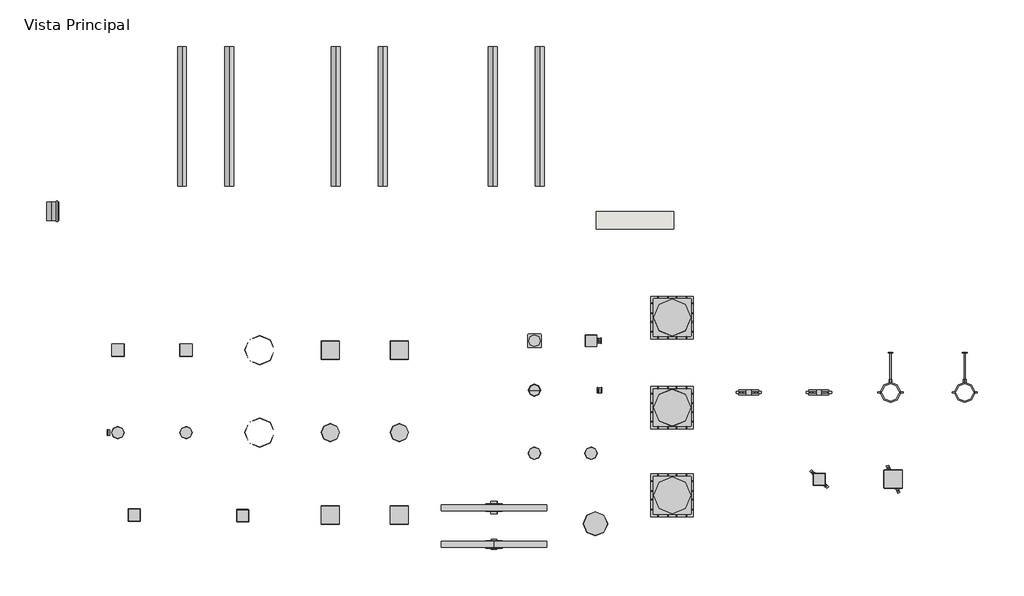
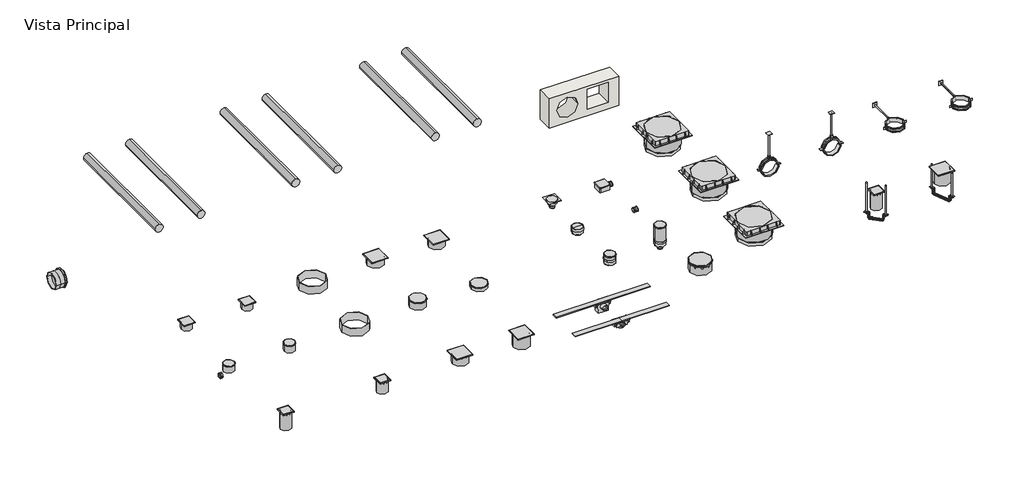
# One storey, incomplete: 79 pipe fittings, 6 pipe segments, 1 wall.
"""IFC4 building model written with IfcOpenShell, lengths in millimetres."""

from ifc_helpers import new_model, si_unit, point, frame, frame_2d, origin, place, context, project, spatial, polyline, circle_curve, trimmed, segment, composite_curve, outline, extrude, transform, mapped, element, save
from components import pipe_fitting_c9efb842, pipe_fitting_faaf0da3, pipe_fitting_47652752, pipe_fitting_5ac48150, var_07da592b, pipe_fitting_1affa7ac, branca_4d6c81dc, branca_e114f869, var_25763102, var_cd76d954, var_304c1aea, var_a9bd8114, var_31f01aff, var_6f0030ce, var_fd0be4a2, var_b1dc0cad, var_47bd62c8, var_adf0dea4, var_122aa8a0, var_08b32b5d, var_3f5b61a8, var_40b4b024, var_42dec933, var_c6f7f501, var_f02d1231, var_ae364558, var_155bfaf0, var_bb14af41, var_194fee5a, var_7cdf46ec, var_94de5e28, var_d2fa6d5f, var_e4b9970f, var_037d8761, var_c44c6f17, var_c8ad4ade, var_b5652f76, var_2c33ede7, var_7808e819, var_b98f59b0, var_06b88987, var_c3ea8d3d, var_ea95b4ab, var_e0431023, var_e55450d1, var_c63adebf, var_61dafded, var_d8ce8ba5, var_463eae7b

model = new_model("IFC4")

# Units and contexts
model_context = context("Model", 3, world=origin())
ifc_project = project(units=[si_unit("LENGTHUNIT", "METRE", prefix="MILLI")], contexts=[model_context])

# Site, building, storey
site = spatial("IfcSite", under=ifc_project)
building = spatial("IfcBuilding", under=site)
storey = spatial("IfcBuildingStorey", under=building, Name="Vista Principal", Elevation=0.0)

# Pipe fittings
placement = place(None, origin())
pipe_fitting_shape = pipe_fitting_c9efb842(model_context)
element("IfcPipeFitting", 1, ObjectType="AmancoWavin_ConexõesdeTubos_EsgotoSilentiumNãoUsarSuporteCaixa : Zincado", at=placement, inside=storey, context=model_context, shape_type="MappedRepresentation", body=[
    mapped(pipe_fitting_shape, transform((21144.6539779, 3001.5203886, -290.355), x_axis=(0.7071067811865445, -0.7071067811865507, 0.0), y_axis=(0.7071067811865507, 0.7071067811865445, 0.0), z_axis=(0.0, 0.0, 1.0))),
])
pipe_fitting_2_shape = pipe_fitting_faaf0da3(model_context)
element("IfcPipeFitting", 2, ObjectType="AmancoWavin_ConexõesdeTubos_EsgotoSilentiumNãoUsarSuporteCaixa : Ecoat", at=placement, inside=storey, context=model_context, shape_type="MappedRepresentation", body=[
    mapped(pipe_fitting_2_shape, transform((21772.0366197, 3001.5203886, -293.01), x_axis=(0.3826834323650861, -0.9238795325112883, 0.0), y_axis=(0.9238795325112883, 0.3826834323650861, 0.0), z_axis=(0.0, 0.0, 1.0))),
])
pipe_fitting_3_shape = pipe_fitting_47652752(model_context)
element("IfcPipeFitting", 3, ObjectType="Z_Amanco Esgoto Caixa Sif Grelha Vórtice Quadrada (Nested) : Plástica Branca", at=placement, inside=storey, context=model_context, shape_type="MappedRepresentation", body=[
    mapped(pipe_fitting_3_shape, transform((15194.231361, 4096.9251232, 101.0), x_axis=(0.0, 1.0, 0.0), y_axis=(-1.0, 0.0, 0.0), z_axis=(0.0, 0.0, 1.0))),
])
pipe_fitting_4_shape = pipe_fitting_5ac48150(model_context)
element("IfcPipeFitting", 4, ObjectType="Z_Amanco Esgoto Caixa Sif Grelha Vórtice Redonda (Nested) : Plástica Branca", at=placement, inside=storey, context=model_context, shape_type="MappedRepresentation", body=[
    mapped(pipe_fitting_4_shape, transform((15194.231361, 3396.9251232, 98.6), x_axis=(-1.0, 0.0, 0.0), y_axis=(0.0, -1.0, 0.0), z_axis=(0.0, 0.0, 1.0))),
])
var_shape = var_07da592b(model_context)
element("IfcPipeFitting", 5, ObjectType="AmancoWavin_ConexõesdeTubos_EsgotoZNãoUsarGrelhaVorticeSilentium : Aço Inox Polido", at=placement, inside=storey, context=model_context, shape_type="MappedRepresentation", body=[
    mapped(var_shape, transform((16182.1459533, 2691.9251232, -2.6), x_axis=(-1.0, 0.0, 0.0), y_axis=(0.0, -1.0, 0.0), z_axis=(0.0, 0.0, 1.0))),
])
element("IfcPipeFitting", 6, ObjectType="AmancoWavin_ConexõesdeTubos_EsgotoZNãoUsarGrelhaVorticeSilentium : Aço Inox Polido", at=placement, inside=storey, context=model_context, shape_type="MappedRepresentation", body=[
    mapped(var_shape, transform((15262.2274414, 2696.9251232, -2.6), x_axis=(-1.0, 0.0, 0.0), y_axis=(0.0, -1.0, 0.0), z_axis=(0.0, 0.0, 1.0))),
])
pipe_fitting_5_shape = pipe_fitting_1affa7ac(model_context)
element("IfcPipeFitting", 7, ObjectType="AmancoWavin_ConexõesdeTubos_EsgotoZNãoUsarGrelhaVorticeSilentium : Aço Inox Polido", at=placement, inside=storey, context=model_context, shape_type="MappedRepresentation", body=[
    mapped(pipe_fitting_5_shape, transform((16926.8649644, 2696.9251232, -3.0), x_axis=(-1.0, 0.0, 0.0), y_axis=(0.0, -1.0, 0.0), z_axis=(0.0, 0.0, 1.0))),
])
element("IfcPipeFitting", 8, ObjectType="AmancoWavin_ConexõesdeTubos_EsgotoZNãoUsarGrelhaVorticeSilentium : Aço Inox Polido", at=placement, inside=storey, context=model_context, shape_type="MappedRepresentation", body=[
    mapped(pipe_fitting_5_shape, transform((17511.8649644, 2696.9251232, -3.0), x_axis=(-1.0, 0.0, 0.0), y_axis=(0.0, -1.0, 0.0), z_axis=(0.0, 0.0, 1.0))),
])
element("IfcPipeFitting", 9, ObjectType="AmancoWavin_ConexõesdeTubos_EsgotoZNãoUsarGrelhaVorticeSilentium : Aço Inox Polido", at=placement, inside=storey, context=model_context, shape_type="MappedRepresentation", body=[
    mapped(pipe_fitting_5_shape, transform((21701.6339755, 3001.5203886, -3.0), x_axis=(-1.0, 0.0, 0.0), y_axis=(0.0, -1.0, 0.0), z_axis=(0.0, 0.0, 1.0))),
])
branca_shape = branca_4d6c81dc(model_context)
element("IfcPipeFitting", 10, ObjectType="AmancoWavin_ConexõesdeTubos_EsgotoZNãoUsarTerminalRalolinear : Branca", at=placement, inside=storey, context=model_context, shape_type="MappedRepresentation", body=[
    mapped(branca_shape, transform((18386.107067, 2759.226408, -42.0), x_axis=(0.0, 1.0, 0.0), y_axis=(-1.0, 0.0, 0.0), z_axis=(0.0, 0.0, 1.0))),
])
branca_2_shape = branca_e114f869(model_context)
element("IfcPipeFitting", 11, ObjectType="AmancoWavin_ConexõesdeTubos_EsgotoZNãoUsarTerminalRalolinear : Branca", at=placement, inside=storey, context=model_context, shape_type="MappedRepresentation", body=[
    mapped(branca_2_shape, transform((18386.107067, 2446.98649, -32.0), x_axis=(0.0, 1.0, 0.0), y_axis=(-1.0, 0.0, 0.0), z_axis=(0.0, 0.0, 1.0))),
])
var_2_shape = var_25763102(model_context)
element("IfcPipeFitting", 12, ObjectType="AmancoWavin_ConexõesdeTubos_EsgotoSilentiumAbraçadeiraH_Zincada : Var.", at=placement, inside=storey, context=model_context, shape_type="MappedRepresentation", body=[
    mapped(var_2_shape, transform((20547.0326854, 3738.3854525, 0.0), x_axis=(1.0, 0.0, 0.0), y_axis=(0.0, 1.0, 0.0), z_axis=(0.0, 0.0, 1.0))),
])
var_3_shape = var_cd76d954(model_context)
element("IfcPipeFitting", 13, ObjectType="Z_Amanco Esgoto Redução Para Caixa Sifonada DN50X40 (Nested) : Var.", at=placement, inside=storey, context=model_context, shape_type="MappedRepresentation", body=[
    mapped(var_3_shape, transform((15116.031361, 3396.9251232, 0.0), x_axis=(1.0, 0.0, 0.0), y_axis=(0.0, 1.0, 0.0), z_axis=(0.0, 0.0, 1.0))),
])
var_4_shape = var_304c1aea(model_context)
element("IfcPipeFitting", 14, ObjectType="Z_Amanco Esgoto Caixa Sif DN 100  SQ GRID(Nested) : Var.", at=placement, inside=storey, context=model_context, shape_type="MappedRepresentation", body=[
    mapped(var_4_shape, transform((15772.6300856, 4096.9251232, 101.0), x_axis=(1.0, 0.0, 0.0), y_axis=(0.0, 1.0, 0.0), z_axis=(0.0, 0.0, 1.0))),
])
var_5_shape = var_a9bd8114(model_context)
element("IfcPipeFitting", 15, ObjectType="Z_Amanco Esgoto Caixa Sif DN 100 Porta Grelha Redondo (Nested) : Var.", at=placement, inside=storey, context=model_context, shape_type="MappedRepresentation", body=[
    mapped(var_5_shape, transform((15194.231361, 3396.9251232, 98.5), x_axis=(0.0, 1.0, 0.0), y_axis=(-1.0, 0.0, 0.0), z_axis=(0.0, 0.0, 1.0))),
])
var_6_shape = var_31f01aff(model_context)
element("IfcPipeFitting", 16, ObjectType="Z_Amanco Esgoto Caixa Sif DN 100 Porta Grelha Quadrado (Nested) : Var.", at=placement, inside=storey, context=model_context, shape_type="MappedRepresentation", body=[
    mapped(var_6_shape, transform((15194.231361, 4096.9251232, 101.0), x_axis=(1.0, 0.0, 0.0), y_axis=(0.0, 1.0, 0.0), z_axis=(0.0, 0.0, 1.0))),
])
var_7_shape = var_6f0030ce(model_context)
element("IfcPipeFitting", 17, ObjectType="Z_Amanco Esgoto Caixa Sif DN 100  RO GRID(Nested) : Var.", at=placement, inside=storey, context=model_context, shape_type="MappedRepresentation", body=[
    mapped(var_7_shape, transform((15772.6300856, 3396.9251232, 106.0), x_axis=(1.0, 0.0, 0.0), y_axis=(0.0, 1.0, 0.0), z_axis=(0.0, 0.0, 1.0))),
])
var_8_shape = var_fd0be4a2(model_context)
element("IfcPipeFitting", 18, ObjectType="Z_Amanco Esgoto Caixa Sif DN 150  RO GRID(Nested) : Var.", at=placement, inside=storey, context=model_context, shape_type="MappedRepresentation", body=[
    mapped(var_8_shape, transform((16997.2676086, 3396.9251232, 126.0), x_axis=(1.0, 0.0, 0.0), y_axis=(0.0, 1.0, 0.0), z_axis=(0.0, 0.0, 1.0))),
])
element("IfcPipeFitting", 19, ObjectType="Z_Amanco Esgoto Caixa Sif DN 150  RO GRID(Nested) : Var.", at=placement, inside=storey, context=model_context, shape_type="MappedRepresentation", body=[
    mapped(var_8_shape, transform((17582.2676086, 3396.9251232, 74.0), x_axis=(1.0, 0.0, 0.0), y_axis=(0.0, 1.0, 0.0), z_axis=(0.0, 0.0, 1.0))),
])
var_9_shape = var_b1dc0cad(model_context)
element("IfcPipeFitting", 20, ObjectType="AmancoWavin_ConexõesdeTubos_EsgotoZNãoUsarRaloSifonadoCilindrico : Var.", at=placement, inside=storey, context=model_context, shape_type="MappedRepresentation", body=[
    mapped(var_9_shape, transform((18729.1544399, 3756.5330417, -18.0), x_axis=(1.0, 0.0, 0.0), y_axis=(0.0, 1.0, 0.0), z_axis=(0.0, 0.0, 1.0))),
])
var_10_shape = var_47bd62c8(model_context)
element("IfcPipeFitting", 21, ObjectType="AmancoWavin_ConexõesdeTubos_EsgotoRaloSecoQuadrado : Var.", at=placement, inside=storey, context=model_context, shape_type="MappedRepresentation", body=[
    mapped(var_10_shape, transform((19209.1544399, 4176.9251232, 0.0), x_axis=(1.0, 0.0, 0.0), y_axis=(0.0, 1.0, 0.0), z_axis=(0.0, 0.0, 1.0))),
])
var_11_shape = var_adf0dea4(model_context)
element("IfcPipeFitting", 22, ObjectType="AmancoWavin_ConexõesdeTubos_EsgotoZNãoUsarCaixaSifonadaSilentiumProlongamento : Var.", at=placement, inside=storey, context=model_context, shape_type="MappedRepresentation", body=[
    mapped(var_11_shape, transform((15332.6300856, 2696.9251232, -173.625), x_axis=(0.0, 0.0, 1.0), y_axis=(-1.0, 0.0, 0.0), z_axis=(0.0, -1.0, 0.0))),
])
element("IfcPipeFitting", 23, ObjectType="AmancoWavin_ConexõesdeTubos_EsgotoZNãoUsarCaixaSifonadaSilentiumProlongamento : Var.", at=placement, inside=storey, context=model_context, shape_type="MappedRepresentation", body=[
    mapped(var_11_shape, transform((21144.6539779, 3001.5203886, -173.625), x_axis=(0.0, 0.0, 1.0), y_axis=(-1.0, 0.0, 0.0), z_axis=(0.0, -1.0, 0.0))),
])
var_12_shape = var_122aa8a0(model_context)
element("IfcPipeFitting", 24, ObjectType="AmancoWavin_ConexõesdeTubos_EsgotoZNãoUsarCaixaSifonadaSilentiumProlongamento : Var.", at=placement, inside=storey, context=model_context, shape_type="MappedRepresentation", body=[
    mapped(var_12_shape, transform((16997.2676086, 2696.9251232, -91.0), x_axis=(0.0, 0.0, 1.0), y_axis=(-1.0, 0.0, 0.0), z_axis=(0.0, -1.0, 0.0))),
])
var_13_shape = var_08b32b5d(model_context)
element("IfcPipeFitting", 25, ObjectType="AmancoWavin_ConexõesdeTubos_EsgotoZNãoUsarCaixaSifonadaSilentiumProlongamento : Var.", at=placement, inside=storey, context=model_context, shape_type="MappedRepresentation", body=[
    mapped(var_13_shape, transform((17582.2676086, 2696.9251232, -128.0), x_axis=(0.0, 0.0, 1.0), y_axis=(-1.0, 0.0, 0.0), z_axis=(0.0, -1.0, 0.0))),
])
element("IfcPipeFitting", 26, ObjectType="AmancoWavin_ConexõesdeTubos_EsgotoZNãoUsarCaixaSifonadaSilentiumProlongamento : Var.", at=placement, inside=storey, context=model_context, shape_type="MappedRepresentation", body=[
    mapped(var_13_shape, transform((21772.0366197, 3001.5203886, -128.0), x_axis=(0.0, 0.0, 1.0), y_axis=(-1.0, 0.0, 0.0), z_axis=(0.0, -1.0, 0.0))),
])
var_14_shape = var_3f5b61a8(model_context)
element("IfcPipeFitting", 27, ObjectType="AmancoWavin_ConexõesdeTubos_EsgotoZNãoUsarCaixaSifonadaSilentiumProlongamento : Var.", at=placement, inside=storey, context=model_context, shape_type="MappedRepresentation", body=[
    mapped(var_14_shape, transform((16252.5485975, 2691.9251232, -124.6526955), x_axis=(0.0, 0.0, 1.0), y_axis=(-1.0, 0.0, 0.0), z_axis=(0.0, -1.0, 0.0))),
])
var_15_shape = var_40b4b024(model_context)
element("IfcPipeFitting", 28, ObjectType="AmancoWavin_ConexõesdeTubos_EsgotoZNãoUsarLuvaSimple : Var.", at=placement, inside=storey, context=model_context, shape_type="MappedRepresentation", body=[
    mapped(var_15_shape, transform((19209.1544399, 3221.7756526, -19.0), x_axis=(0.0, 0.0, 1.0), y_axis=(-1.0, 0.0, 0.0), z_axis=(0.0, -1.0, 0.0))),
])
element("IfcPipeFitting", 29, ObjectType="AmancoWavin_ConexõesdeTubos_EsgotoZNãoUsarLuvaSimple : Var.", at=placement, inside=storey, context=model_context, shape_type="MappedRepresentation", body=[
    mapped(var_15_shape, transform((19280.4544399, 3756.5330417, 0.0), x_axis=(-1.0, 0.0, 0.0), y_axis=(0.0, -1.0, 0.0), z_axis=(0.0, 0.0, 1.0))),
])
element("IfcPipeFitting", 30, ObjectType="AmancoWavin_ConexõesdeTubos_EsgotoZNãoUsarLuvaSimple : Var.", at=placement, inside=storey, context=model_context, shape_type="MappedRepresentation", body=[
    mapped(var_15_shape, transform((19277.3544399, 4176.9251232, 0.0), x_axis=(-1.0, 0.0, 0.0), y_axis=(0.0, 0.0, -1.0), z_axis=(0.0, -1.0, 0.0))),
])
element("IfcPipeFitting", 31, ObjectType="AmancoWavin_ConexõesdeTubos_EsgotoZNãoUsarLuvaSimple : Var.", at=placement, inside=storey, context=model_context, shape_type="MappedRepresentation", body=[
    mapped(var_15_shape, transform((18729.1544399, 4176.9251232, -19.0), x_axis=(0.0, 0.0, 1.0), y_axis=(-1.0, 0.0, 0.0), z_axis=(0.0, -1.0, 0.0))),
])
var_16_shape = var_42dec933(model_context)
element("IfcPipeFitting", 32, ObjectType="AmancoWavin_ConexõesdeTubos_EsgotoZNãoUsarLuvaSimple : Var.", at=placement, inside=storey, context=model_context, shape_type="MappedRepresentation", body=[
    mapped(var_16_shape, transform((14629.1609889, 5276.2225632, 0.0), x_axis=(1.0, 0.0, 0.0), y_axis=(0.0, 1.0, 0.0), z_axis=(0.0, 0.0, 1.0))),
])
var_17_shape = var_c6f7f501(model_context)
element("IfcPipeFitting", 33, ObjectType="AmancoWavin_ConexõesdeTubos_EsgotoZNãoUsarGelhaRaloLinear : Var.", at=placement, inside=storey, context=model_context, shape_type="MappedRepresentation", body=[
    mapped(var_17_shape, transform((18610.257067, 2446.98649, -5.7), x_axis=(-1.0, 0.0, 0.0), y_axis=(0.0, -1.0, 0.0), z_axis=(0.0, 0.0, 1.0))),
])
element("IfcPipeFitting", 34, ObjectType="AmancoWavin_ConexõesdeTubos_EsgotoZNãoUsarGelhaRaloLinear : Var.", at=placement, inside=storey, context=model_context, shape_type="MappedRepresentation", body=[
    mapped(var_17_shape, transform((18161.957067, 2446.98649, -5.7), x_axis=(-1.0, 0.0, 0.0), y_axis=(0.0, -1.0, 0.0), z_axis=(0.0, 0.0, 1.0))),
])
var_18_shape = var_f02d1231(model_context)
element("IfcPipeFitting", 35, ObjectType="AmancoWavin_ConexõesdeTubos_EsgotoRaloLinearSifonado : Var.", at=placement, inside=storey, context=model_context, shape_type="MappedRepresentation", body=[
    mapped(var_18_shape, transform((18386.107067, 2759.226408, 0.0), x_axis=(-1.0, 0.0, 0.0), y_axis=(0.0, -1.0, 0.0), z_axis=(0.0, 0.0, 1.0))),
])
var_19_shape = var_ae364558(model_context)
element("IfcPipeFitting", 36, ObjectType="AmancoWavin_ConexõesdeTubos_EsgotoZNãoUsarEsgotoProlongamento300mm : Var.", at=placement, inside=storey, context=model_context, shape_type="MappedRepresentation", body=[
    mapped(var_19_shape, transform((19897.5301317, 4373.3854525, 44.7), x_axis=(1.0, 0.0, 0.0), y_axis=(0.0, 1.0, 0.0), z_axis=(0.0, 0.0, 1.0))),
])
element("IfcPipeFitting", 37, ObjectType="AmancoWavin_ConexõesdeTubos_EsgotoZNãoUsarEsgotoProlongamento300mm : Var.", at=placement, inside=storey, context=model_context, shape_type="MappedRepresentation", body=[
    mapped(var_19_shape, transform((19897.5301317, 3608.8206667, 58.8), x_axis=(1.0, 0.0, 0.0), y_axis=(0.0, 1.0, 0.0), z_axis=(0.0, 0.0, 1.0))),
])
var_20_shape = var_155bfaf0(model_context)
element("IfcPipeFitting", 38, ObjectType="AmancoWavin_ConexõesdeTubos_EsgotoZNãoUsarEsgotoProlongamento300mm : Var.", at=placement, inside=storey, context=model_context, shape_type="MappedRepresentation", body=[
    mapped(var_20_shape, transform((19897.5301317, 2864.2558809, 58.8), x_axis=(1.0, 0.0, 0.0), y_axis=(0.0, 1.0, 0.0), z_axis=(0.0, 0.0, 1.0))),
])
var_21_shape = var_bb14af41(model_context)
element("IfcPipeFitting", 39, ObjectType="AmancoWavin_ConexõesdeTubos_EsgotoZNãoUsarPortaGrelhaVálvuladeRetenção : Var.", at=placement, inside=storey, context=model_context, shape_type="MappedRepresentation", body=[
    mapped(var_21_shape, transform((19316.5560305, 2623.1095783, 178.0), x_axis=(1.0, 0.0, 0.0), y_axis=(0.0, 1.0000000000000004, 0.0), z_axis=(0.0, 0.0, 1.0000000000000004))),
])
var_22_shape = var_194fee5a(model_context)
element("IfcPipeFitting", 40, ObjectType="AmancoWavin_ConexõesdeTubos_EsgotoZNãoUsarEsgotoCaixaSifProlongamento : Var.", at=placement, inside=storey, context=model_context, shape_type="MappedRepresentation", body=[
    mapped(var_22_shape, transform((16397.2676086, 4096.9251232, 31.0), x_axis=(0.0, 0.0, 1.0), y_axis=(-1.0, 0.0, 0.0), z_axis=(0.0, -1.0, 0.0))),
])
element("IfcPipeFitting", 41, ObjectType="AmancoWavin_ConexõesdeTubos_EsgotoZNãoUsarEsgotoCaixaSifProlongamento : Var.", at=placement, inside=storey, context=model_context, shape_type="MappedRepresentation", body=[
    mapped(var_22_shape, transform((16397.2676086, 3396.9251232, 31.0), x_axis=(0.0, 0.0, 1.0), y_axis=(-1.0, 0.0, 0.0), z_axis=(0.0, -1.0, 0.0))),
])
var_23_shape = var_7cdf46ec(model_context)
element("IfcPipeFitting", 42, ObjectType="AmancoWavin_ConexõesdeTubos_EsgotoZNãoUsarEsgotoCaixaSifProlongamento : Var.", at=placement, inside=storey, context=model_context, shape_type="MappedRepresentation", body=[
    mapped(var_23_shape, transform((16997.2676086, 4096.9251232, 51.0), x_axis=(0.0, 0.0, 1.0), y_axis=(-1.0, 0.0, 0.0), z_axis=(0.0, -1.0, 0.0))),
])
element("IfcPipeFitting", 43, ObjectType="AmancoWavin_ConexõesdeTubos_EsgotoZNãoUsarEsgotoCaixaSifProlongamento : Var.", at=placement, inside=storey, context=model_context, shape_type="MappedRepresentation", body=[
    mapped(var_23_shape, transform((16997.2676086, 3396.9251232, 51.0), x_axis=(0.0, 0.0, 1.0), y_axis=(-1.0, 0.0, 0.0), z_axis=(0.0, -1.0, 0.0))),
])
element("IfcPipeFitting", 44, ObjectType="AmancoWavin_ConexõesdeTubos_EsgotoZNãoUsarEsgotoCaixaSifProlongamento : Var.", at=placement, inside=storey, context=model_context, shape_type="MappedRepresentation", body=[
    mapped(var_23_shape, transform((17582.2676086, 4096.9251232, 34.0), x_axis=(0.0, 0.0, 1.0), y_axis=(-1.0, 0.0, 0.0), z_axis=(0.0, -1.0, 0.0))),
])
var_24_shape = var_94de5e28(model_context)
element("IfcPipeFitting", 45, ObjectType="AmancoWavin_ConexõesdeTubos_EsgotoZNãoUsarEsgotoCaixaSifProlongamento : Var.", at=placement, inside=storey, context=model_context, shape_type="MappedRepresentation", body=[
    mapped(var_24_shape, transform((15772.6300856, 3396.9251232, 31.0), x_axis=(0.0, 0.0, 1.0), y_axis=(-1.0, 0.0, 0.0), z_axis=(0.0, -1.0, 0.0))),
])
var_25_shape = var_d2fa6d5f(model_context)
element("IfcPipeFitting", 46, ObjectType="AmancoWavin_ConexõesdeTubos_EsgotoZNãoUsarEsgotoCaixaSifProlongamento : Var.", at=placement, inside=storey, context=model_context, shape_type="MappedRepresentation", body=[
    mapped(var_25_shape, transform((17582.2676086, 3396.9251232, 34.0), x_axis=(0.0, 0.0, 1.0), y_axis=(-1.0, 0.0, 0.0), z_axis=(0.0, -1.0, 0.0))),
])
var_26_shape = var_e4b9970f(model_context)
element("IfcPipeFitting", 47, ObjectType="AmancoWavin_ConexõesdeTubos_EsgotoZNãoUsarEsgotoCaixaSifProlongamento : Var.", at=placement, inside=storey, context=model_context, shape_type="MappedRepresentation", body=[
    mapped(var_26_shape, transform((19246.1533863, 2623.1095783, 98.8), x_axis=(0.0, 0.0, 1.0000000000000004), y_axis=(-1.0, 0.0, 0.0), z_axis=(0.0, -1.0000000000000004, 0.0))),
])
var_27_shape = var_037d8761(model_context)
element("IfcPipeFitting", 48, ObjectType="AmancoWavin_ConexõesdeTubos_EsgotoZNãoUsarEsgotoCaixaSifProlongamento : Var.", at=placement, inside=storey, context=model_context, shape_type="MappedRepresentation", body=[
    mapped(var_27_shape, transform((15772.6300856, 4096.9251232, 31.0), x_axis=(0.0, 0.0, 1.0), y_axis=(-1.0, 0.0, 0.0), z_axis=(0.0, -1.0, 0.0))),
])
element("IfcPipeFitting", 49, ObjectType="AmancoWavin_ConexõesdeTubos_EsgotoZNãoUsarEsgotoCaixaSifProlongamento : Var.", at=placement, inside=storey, context=model_context, shape_type="MappedRepresentation", body=[
    mapped(var_27_shape, transform((15194.231361, 4096.9251232, 31.0), x_axis=(0.0, 0.0, 1.0), y_axis=(-1.0, 0.0, 0.0), z_axis=(0.0, -1.0, 0.0))),
])
var_28_shape = var_c44c6f17(model_context)
element("IfcPipeFitting", 50, ObjectType="AmancoWavin_ConexõesdeTubos_EsgotoZNãoUsarEsgotoCaixaSifProlongamento : Var.", at=placement, inside=storey, context=model_context, shape_type="MappedRepresentation", body=[
    mapped(var_28_shape, transform((18729.1544399, 3221.7756526, 19.3), x_axis=(0.0, 0.0, 1.0), y_axis=(-1.0, 0.0, 0.0), z_axis=(0.0, -1.0, 0.0))),
])
var_29_shape = var_c8ad4ade(model_context)
element("IfcPipeFitting", 51, ObjectType="AmancoWavin_ConexõesdeTubos_EsgotoZNãoUsarEsgotoCaixaSifProlongamento : Var.", at=placement, inside=storey, context=model_context, shape_type="MappedRepresentation", body=[
    mapped(var_29_shape, transform((19209.1544399, 3221.7756526, 38.0), x_axis=(0.0, 0.0, 1.0), y_axis=(-1.0, 0.0, 0.0), z_axis=(0.0, -1.0, 0.0))),
])
var_30_shape = var_b5652f76(model_context)
element("IfcPipeFitting", 52, ObjectType="AmancoWavin_ConexõesdeTubos_EsgotoZNãoUsarEsgotoCaixaSifProlongamento : Var.", at=placement, inside=storey, context=model_context, shape_type="MappedRepresentation", body=[
    mapped(var_30_shape, transform((15194.231361, 3396.9251232, 31.0), x_axis=(0.0, 0.0, 1.0), y_axis=(-1.0, 0.0, 0.0), z_axis=(0.0, -1.0, 0.0))),
])
var_31_shape = var_2c33ede7(model_context)
element("IfcPipeFitting", 53, ObjectType="AmancoWavin_ConexõesdeTubos_EsgotoZNãoUsarTampaCaixaGord-Insp : Var.", at=placement, inside=storey, context=model_context, shape_type="MappedRepresentation", body=[
    mapped(var_31_shape, transform((19897.5301317, 3608.8206667, 212.6), x_axis=(1.0, 0.0, 0.0), y_axis=(0.0, 1.0, 0.0), z_axis=(0.0, 0.0, 1.0))),
])
element("IfcPipeFitting", 54, ObjectType="AmancoWavin_ConexõesdeTubos_EsgotoZNãoUsarTampaCaixaGord-Insp : Var.", at=placement, inside=storey, context=model_context, shape_type="MappedRepresentation", body=[
    mapped(var_31_shape, transform((19897.5301317, 4373.3854525, 198.5), x_axis=(1.0, 0.0, 0.0), y_axis=(0.0, 1.0, 0.0), z_axis=(0.0, 0.0, 1.0))),
])
element("IfcPipeFitting", 55, ObjectType="AmancoWavin_ConexõesdeTubos_EsgotoZNãoUsarTampaCaixaGord-Insp : Var.", at=placement, inside=storey, context=model_context, shape_type="MappedRepresentation", body=[
    mapped(var_31_shape, transform((19897.5301317, 2864.2558809, 207.6), x_axis=(1.0, 0.0, 0.0), y_axis=(0.0, 1.0, 0.0), z_axis=(0.0, 0.0, 1.0))),
])
var_32_shape = var_7808e819(model_context)
element("IfcPipeFitting", 56, ObjectType="AmancoWavin_ConexõesdeTubos_EsgotoZNãoUsarRaloSifonadoQuadrado(Corpo Conico) : Var.", at=placement, inside=storey, context=model_context, shape_type="MappedRepresentation", body=[
    mapped(var_32_shape, transform((18729.1544399, 4176.9251232, 0.0), x_axis=(1.0, 0.0, 0.0), y_axis=(0.0, 1.0, 0.0), z_axis=(0.0, 0.0, 1.0))),
])
var_33_shape = var_b98f59b0(model_context)
element("IfcPipeFitting", 57, ObjectType="AmancoWavin_ConexõesdeTubos_EsgotoZNãoUsarPortaGrelhaSilentium : Var.", at=placement, inside=storey, context=model_context, shape_type="MappedRepresentation", body=[
    mapped(var_33_shape, transform((17067.6702529, 2696.9251232, -7.0), x_axis=(1.0, 0.0, 0.0), y_axis=(0.0, 1.0, 0.0), z_axis=(0.0, 0.0, 1.0))),
])
element("IfcPipeFitting", 58, ObjectType="AmancoWavin_ConexõesdeTubos_EsgotoZNãoUsarPortaGrelhaSilentium : Var.", at=placement, inside=storey, context=model_context, shape_type="MappedRepresentation", body=[
    mapped(var_33_shape, transform((17511.8649644, 2696.9251232, -7.0), x_axis=(-1.0, 0.0, 0.0), y_axis=(0.0, -1.0, 0.0), z_axis=(0.0, 0.0, 1.0))),
])
element("IfcPipeFitting", 59, ObjectType="AmancoWavin_ConexõesdeTubos_EsgotoZNãoUsarPortaGrelhaSilentium : Var.", at=placement, inside=storey, context=model_context, shape_type="MappedRepresentation", body=[
    mapped(var_33_shape, transform((21701.6339755, 3001.5203886, -7.0), x_axis=(-1.0, 0.0, 0.0), y_axis=(0.0, -1.0, 0.0), z_axis=(0.0, 0.0, 1.0))),
])
var_34_shape = var_06b88987(model_context)
element("IfcPipeFitting", 60, ObjectType="AmancoWavin_ConexõesdeTubos_EsgotoSilentiumAbraçadeiraV_Zincada : Var.", at=placement, inside=storey, context=model_context, shape_type="MappedRepresentation", body=[
    mapped(var_34_shape, transform((21749.9859504, 3738.3854525, 0.0), x_axis=(-1.0, 0.0, 0.0), y_axis=(0.0, -1.0, 0.0), z_axis=(0.0, 0.0, 1.0))),
])
element("IfcPipeFitting", 61, ObjectType="AmancoWavin_ConexõesdeTubos_EsgotoSilentiumAbraçadeiraH_Ecoat : Var.", at=placement, inside=storey, context=model_context, shape_type="MappedRepresentation", body=[
    mapped(var_2_shape, transform((21142.1466458, 3738.3854525, 0.0), x_axis=(1.0, 0.0, 0.0), y_axis=(0.0, 1.0, 0.0), z_axis=(0.0, 0.0, 1.0))),
])
element("IfcPipeFitting", 62, ObjectType="AmancoWavin_ConexõesdeTubos_EsgotoSilentiumAbraçadeiraV_Ecoat : Var.", at=placement, inside=storey, context=model_context, shape_type="MappedRepresentation", body=[
    mapped(var_34_shape, transform((22380.0999108, 3738.3854525, 0.0), x_axis=(-1.0, 0.0, 0.0), y_axis=(0.0, -1.0, 0.0), z_axis=(0.0, 0.0, 1.0))),
])
var_35_shape = var_c3ea8d3d(model_context)
element("IfcPipeFitting", 63, ObjectType="AmancoWavin_ConexõesdeTubos_EsfotoSilentiumNãoUsarBarracomBase : Var.", at=placement, inside=storey, context=model_context, shape_type="MappedRepresentation", body=[
    mapped(var_35_shape, transform((20547.0326854, 3738.3854525, 97.5), x_axis=(1.0, 0.0, 0.0), y_axis=(0.0, 1.0, 0.0), z_axis=(0.0, 0.0, 1.0))),
])
element("IfcPipeFitting", 64, ObjectType="AmancoWavin_ConexõesdeTubos_EsfotoSilentiumNãoUsarBarracomBase : Var.", at=placement, inside=storey, context=model_context, shape_type="MappedRepresentation", body=[
    mapped(var_35_shape, transform((21749.9859504, 3835.8854525, 0.0), x_axis=(1.0, 0.0, 0.0), y_axis=(0.0, 0.0, -1.0), z_axis=(0.0, 1.0, 0.0))),
])
element("IfcPipeFitting", 65, ObjectType="AmancoWavin_ConexõesdeTubos_EsfotoSilentiumNãoUsarBarracomBase : Var.", at=placement, inside=storey, context=model_context, shape_type="MappedRepresentation", body=[
    mapped(var_35_shape, transform((22380.0999108, 3835.8854525, 0.0), x_axis=(1.0, 0.0, 0.0), y_axis=(0.0, 0.0, -1.0), z_axis=(0.0, 1.0, 0.0))),
])
element("IfcPipeFitting", 66, ObjectType="AmancoWavin_ConexõesdeTubos_EsfotoSilentiumNãoUsarBarracomBase : Var.", at=placement, inside=storey, context=model_context, shape_type="MappedRepresentation", body=[
    mapped(var_35_shape, transform((21142.1466458, 3738.3854525, 97.5), x_axis=(1.0, 0.0, 0.0), y_axis=(0.0, 1.0, 0.0), z_axis=(0.0, 0.0, 1.0))),
])
var_36_shape = var_ea95b4ab(model_context)
element("IfcPipeFitting", 67, ObjectType="AmancoWavin_ConexõesdeTubos_EsfotoSilentiumNãoUsarBarrasemBase : Var.", at=placement, inside=storey, context=model_context, shape_type="MappedRepresentation", body=[
    mapped(var_36_shape, transform((21731.6635176, 3098.9896792, -250.26), x_axis=(0.3826834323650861, -0.9238795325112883, 0.0), y_axis=(0.9238795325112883, 0.3826834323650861, 0.0), z_axis=(0.0, 0.0, 1.0))),
])
element("IfcPipeFitting", 68, ObjectType="AmancoWavin_ConexõesdeTubos_EsfotoSilentiumNãoUsarBarrasemBase : Var.", at=placement, inside=storey, context=model_context, shape_type="MappedRepresentation", body=[
    mapped(var_36_shape, transform((21812.4097218, 2904.0510979, -250.26), x_axis=(0.3826834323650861, -0.9238795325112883, 0.0), y_axis=(0.9238795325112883, 0.3826834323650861, 0.0), z_axis=(0.0, 0.0, 1.0))),
])
var_37_shape = var_e0431023(model_context)
element("IfcPipeFitting", 69, ObjectType="AmancoWavin_ConexõesdeTubos_EsfotoSilentiumNãoUsarBarrasemBase : Var.", at=placement, inside=storey, context=model_context, shape_type="MappedRepresentation", body=[
    mapped(var_37_shape, transform((21086.3176684, 3059.856698, -247.605), x_axis=(0.7071067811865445, -0.7071067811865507, 0.0), y_axis=(0.7071067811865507, 0.7071067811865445, 0.0), z_axis=(0.0, 0.0, 1.0))),
])
element("IfcPipeFitting", 70, ObjectType="AmancoWavin_ConexõesdeTubos_EsfotoSilentiumNãoUsarBarrasemBase : Var.", at=placement, inside=storey, context=model_context, shape_type="MappedRepresentation", body=[
    mapped(var_37_shape, transform((21202.9902873, 2943.1840791, -247.605), x_axis=(0.7071067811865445, -0.7071067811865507, 0.0), y_axis=(0.7071067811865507, 0.7071067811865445, 0.0), z_axis=(0.0, 0.0, 1.0))),
])
element("IfcPipeFitting", 71, ObjectType="AmancoWavin_ConexõesdeTubos_EsgotoZNãoUsarGrelhaSilentium : Var.", at=placement, inside=storey, context=model_context, shape_type="MappedRepresentation", body=[
    mapped(var_shape, transform((21215.0566221, 3001.5203886, -2.6), x_axis=(1.0, 0.0, 0.0), y_axis=(0.0, 1.0, 0.0), z_axis=(0.0, 0.0, 1.0))),
])
var_38_shape = var_e55450d1(model_context)
element("IfcPipeFitting", 72, ObjectType="Z_Amanco Esgoto Caixa Sif DN 150  SQ GRID(Nested) : Var.", at=placement, inside=storey, context=model_context, shape_type="MappedRepresentation", body=[
    mapped(var_38_shape, transform((16997.2676086, 4096.9251232, 126.0), x_axis=(1.0, 0.0, 0.0), y_axis=(0.0, 1.0, 0.0), z_axis=(0.0, 0.0, 1.0))),
])
element("IfcPipeFitting", 73, ObjectType="Z_Amanco Esgoto Caixa Sif DN 150  SQ GRID(Nested) : Var.", at=placement, inside=storey, context=model_context, shape_type="MappedRepresentation", body=[
    mapped(var_38_shape, transform((17582.2676086, 4096.9251232, 109.0), x_axis=(1.0, 0.0, 0.0), y_axis=(0.0, 1.0, 0.0), z_axis=(0.0, 0.0, 1.0))),
])
var_39_shape = var_c63adebf(model_context)
element("IfcPipeFitting", 74, ObjectType="AmancoWavin_ConexõesdeTubos_EsgotoZNãoUsarPortaGrelhaSilentium : Var.", at=placement, inside=storey, context=model_context, shape_type="MappedRepresentation", body=[
    mapped(var_39_shape, transform((15403.0327298, 2696.9251232, -7.0), x_axis=(1.0, 0.0, 0.0), y_axis=(0.0, 1.0, 0.0), z_axis=(0.0, 0.0, 1.0))),
])
element("IfcPipeFitting", 75, ObjectType="AmancoWavin_ConexõesdeTubos_EsgotoZNãoUsarPortaGrelhaSilentium : Var.", at=placement, inside=storey, context=model_context, shape_type="MappedRepresentation", body=[
    mapped(var_39_shape, transform((21215.0566221, 3001.5203886, -7.0), x_axis=(1.0, 0.0, 0.0), y_axis=(0.0, 1.0, 0.0), z_axis=(0.0, 0.0, 1.0))),
])
element("IfcPipeFitting", 76, ObjectType="AmancoWavin_ConexõesdeTubos_EsgotoZNãoUsarPortaGrelhaSilentium : Var.", at=placement, inside=storey, context=model_context, shape_type="MappedRepresentation", body=[
    mapped(var_39_shape, transform((16322.9512418, 2691.9251232, -7.0), x_axis=(1.0, 0.0, 0.0), y_axis=(0.0, 1.0, 0.0), z_axis=(0.0, 0.0, 1.0))),
])
var_40_shape = var_61dafded(model_context)
element("IfcPipeFitting", 77, ObjectType="AmancoWavin_ConexõesdeTubos_EsgotoZNãoUsarRaloSifonadoCilindricoProlongamento : Var.", at=placement, inside=storey, context=model_context, shape_type="MappedRepresentation", body=[
    mapped(var_40_shape, transform((18729.1544399, 3221.7756526, 0.0), x_axis=(1.0, 0.0, 0.0), y_axis=(0.0, 1.0, 0.0), z_axis=(0.0, 0.0, 1.0))),
])
var_41_shape = var_d8ce8ba5(model_context)
element("IfcPipeFitting", 78, ObjectType="AmancoWavin_ConexõesdeTubos_EsgotoRaloSifonadoCilindricocomProlongamento : Var.", at=placement, inside=storey, context=model_context, shape_type="MappedRepresentation", body=[
    mapped(var_41_shape, transform((18729.1544399, 3221.7756526, 0.0), x_axis=(1.0, 0.0, 0.0), y_axis=(0.0, 1.0, 0.0), z_axis=(0.0, 0.0, 1.0))),
])
var_42_shape = var_463eae7b(model_context)
element("IfcPipeFitting", 79, ObjectType="AmancoWavin_ConexõesdeTubos_EsgotoRaloSecoCilindricocomProlongamento : Var.", at=placement, inside=storey, context=model_context, shape_type="MappedRepresentation", body=[
    mapped(var_42_shape, transform((19209.1544399, 3221.7756526, 0.0), x_axis=(1.0, 0.0, 0.0), y_axis=(0.0, 1.0, 0.0), z_axis=(0.0, 0.0, 1.0))),
])

# Pipe segments
element("IfcPipeSegment", 80, ObjectType="Amanco Wavin Esgoto Série Normal SEM Bolsa", at=placement, inside=storey, context=model_context, shape_type="SweptSolid", body=[
    extrude(outline(composite_curve([segment(trimmed(circle_curve(frame_2d((0.0, 15738.7661597)), 37.75), [point((0.0, 15701.0161597))], [point((-37.75, 15738.7661597))], False, "CARTESIAN"), True, "CONTINUOUS"), segment(trimmed(circle_curve(frame_2d((0.0, 15738.7661597)), 37.75), [point((-37.75, 15738.7661597))], [point((0.0, 15776.5161597))], False, "CARTESIAN"), True, "CONTINUOUS"), segment(trimmed(circle_curve(frame_2d((0.0, 15738.7661597)), 37.75), [point((0.0, 15776.5161597))], [point((37.75, 15738.7661597))], False, "CARTESIAN"), True, "CONTINUOUS"), segment(trimmed(circle_curve(frame_2d((0.0, 15738.7661597)), 37.75), [point((37.75, 15738.7661597))], [point((0.0, 15701.0161597))], False, "CARTESIAN"), True, "CONTINUOUS")], self_intersect=False)), frame((0.0, 5490.6695318, 0.0), z_axis=(0.0, 1.0, 0.0), x_axis=(0.0, 0.0, 1.0)), (0.0, 0.0, 1.0), 1185.0),
])
element("IfcPipeSegment", 81, ObjectType="Amanco Wavin Esgoto Silentium SEM Bolsa", at=placement, inside=storey, context=model_context, shape_type="SweptSolid", body=[
    extrude(outline(composite_curve([segment(trimmed(circle_curve(frame_2d((0.0, 18374.3228356)), 37.75), [point((0.0, 18336.5728356))], [point((-37.75, 18374.3228356))], False, "CARTESIAN"), True, "CONTINUOUS"), segment(trimmed(circle_curve(frame_2d((0.0, 18374.3228356)), 37.75), [point((-37.75, 18374.3228356))], [point((0.0, 18412.0728356))], False, "CARTESIAN"), True, "CONTINUOUS"), segment(trimmed(circle_curve(frame_2d((0.0, 18374.3228356)), 37.75), [point((0.0, 18412.0728356))], [point((37.75, 18374.3228356))], False, "CARTESIAN"), True, "CONTINUOUS"), segment(trimmed(circle_curve(frame_2d((0.0, 18374.3228356)), 37.75), [point((37.75, 18374.3228356))], [point((0.0, 18336.5728356))], False, "CARTESIAN"), True, "CONTINUOUS")], self_intersect=False)), frame((0.0, 5490.6695318, 0.0), z_axis=(0.0, 1.0, 0.0), x_axis=(0.0, 0.0, 1.0)), (0.0, 0.0, 1.0), 1185.0),
])
element("IfcPipeSegment", 82, ObjectType="Amanco Wavin Esgoto Silentium COM Bolsa", at=placement, inside=storey, context=model_context, shape_type="SweptSolid", body=[
    extrude(outline(composite_curve([segment(trimmed(circle_curve(frame_2d((0.0, 18774.3228356)), 37.75), [point((0.0, 18736.5728356))], [point((-37.75, 18774.3228356))], False, "CARTESIAN"), True, "CONTINUOUS"), segment(trimmed(circle_curve(frame_2d((0.0, 18774.3228356)), 37.75), [point((-37.75, 18774.3228356))], [point((0.0, 18812.0728356))], False, "CARTESIAN"), True, "CONTINUOUS"), segment(trimmed(circle_curve(frame_2d((0.0, 18774.3228356)), 37.75), [point((0.0, 18812.0728356))], [point((37.75, 18774.3228356))], False, "CARTESIAN"), True, "CONTINUOUS"), segment(trimmed(circle_curve(frame_2d((0.0, 18774.3228356)), 37.75), [point((37.75, 18774.3228356))], [point((0.0, 18736.5728356))], False, "CARTESIAN"), True, "CONTINUOUS")], self_intersect=False)), frame((0.0, 5490.6695318, 0.0), z_axis=(0.0, 1.0, 0.0), x_axis=(0.0, 0.0, 1.0)), (0.0, 0.0, 1.0), 1185.0),
])
element("IfcPipeSegment", 83, ObjectType="Amanco Wavin Esgoto Série Normal COM Bolsa", at=placement, inside=storey, context=model_context, shape_type="SweptSolid", body=[
    extrude(outline(composite_curve([segment(trimmed(circle_curve(frame_2d((0.0, 16138.7661597)), 37.75), [point((0.0, 16101.0161597))], [point((-37.75, 16138.7661597))], False, "CARTESIAN"), True, "CONTINUOUS"), segment(trimmed(circle_curve(frame_2d((0.0, 16138.7661597)), 37.75), [point((-37.75, 16138.7661597))], [point((0.0, 16176.5161597))], False, "CARTESIAN"), True, "CONTINUOUS"), segment(trimmed(circle_curve(frame_2d((0.0, 16138.7661597)), 37.75), [point((0.0, 16176.5161597))], [point((37.75, 16138.7661597))], False, "CARTESIAN"), True, "CONTINUOUS"), segment(trimmed(circle_curve(frame_2d((0.0, 16138.7661597)), 37.75), [point((37.75, 16138.7661597))], [point((0.0, 16101.0161597))], False, "CARTESIAN"), True, "CONTINUOUS")], self_intersect=False)), frame((0.0, 5490.6695318, 0.0), z_axis=(0.0, 1.0, 0.0), x_axis=(0.0, 0.0, 1.0)), (0.0, 0.0, 1.0), 1185.0),
])
element("IfcPipeSegment", 84, ObjectType="Amanco Wavin Esgoto Série Reforçada COM Bolsa", at=placement, inside=storey, context=model_context, shape_type="SweptSolid", body=[
    extrude(outline(composite_curve([segment(trimmed(circle_curve(frame_2d((0.0, 17442.2676086)), 37.75), [point((0.0, 17404.5176086))], [point((-37.75, 17442.2676086))], False, "CARTESIAN"), True, "CONTINUOUS"), segment(trimmed(circle_curve(frame_2d((0.0, 17442.2676086)), 37.75), [point((-37.75, 17442.2676086))], [point((0.0, 17480.0176086))], False, "CARTESIAN"), True, "CONTINUOUS"), segment(trimmed(circle_curve(frame_2d((0.0, 17442.2676086)), 37.75), [point((0.0, 17480.0176086))], [point((37.75, 17442.2676086))], False, "CARTESIAN"), True, "CONTINUOUS"), segment(trimmed(circle_curve(frame_2d((0.0, 17442.2676086)), 37.75), [point((37.75, 17442.2676086))], [point((0.0, 17404.5176086))], False, "CARTESIAN"), True, "CONTINUOUS")], self_intersect=False)), frame((0.0, 5490.6695318, 0.0), z_axis=(0.0, 1.0, 0.0), x_axis=(0.0, 0.0, 1.0)), (0.0, 0.0, 1.0), 1185.0),
])
element("IfcPipeSegment", 85, ObjectType="Amanco Wavin Esgoto Série Reforçada SEM Bolsa", at=placement, inside=storey, context=model_context, shape_type="SweptSolid", body=[
    extrude(outline(composite_curve([segment(trimmed(circle_curve(frame_2d((0.0, 17042.2676086)), 37.75), [point((0.0, 17004.5176086))], [point((-37.75, 17042.2676086))], False, "CARTESIAN"), True, "CONTINUOUS"), segment(trimmed(circle_curve(frame_2d((0.0, 17042.2676086)), 37.75), [point((-37.75, 17042.2676086))], [point((0.0, 17080.0176086))], False, "CARTESIAN"), True, "CONTINUOUS"), segment(trimmed(circle_curve(frame_2d((0.0, 17042.2676086)), 37.75), [point((0.0, 17080.0176086))], [point((37.75, 17042.2676086))], False, "CARTESIAN"), True, "CONTINUOUS"), segment(trimmed(circle_curve(frame_2d((0.0, 17042.2676086)), 37.75), [point((37.75, 17042.2676086))], [point((0.0, 17004.5176086))], False, "CARTESIAN"), True, "CONTINUOUS")], self_intersect=False)), frame((0.0, 5490.6695318, 0.0), z_axis=(0.0, 1.0, 0.0), x_axis=(0.0, 0.0, 1.0)), (0.0, 0.0, 1.0), 1185.0),
])

# Wall
element("IfcWall", 86, ObjectType="Wall 1", at=placement, inside=storey, context=model_context, shape_type="SweptSolid", body=[
    extrude(outline(polyline([(0.0, 19251.3672412), (0.0, 19911.3672412), (296.5968372, 19911.3672412), (296.5968372, 19251.3672412), (0.0, 19251.3672412)]), holes=[composite_curve([segment(trimmed(circle_curve(frame_2d((154.4282969, 19421.3672412)), 100.0), [point((154.4282969, 19521.3672412))], [point((154.4282969, 19321.3672412))], True, "CARTESIAN"), True, "CONTINUOUS"), segment(trimmed(circle_curve(frame_2d((154.4282969, 19421.3672412)), 100.0), [point((154.4282969, 19321.3672412))], [point((154.4282969, 19521.3672412))], True, "CARTESIAN"), True, "CONTINUOUS")], self_intersect=False), polyline([(66.4896004, 19811.3672412), (66.4896004, 19611.3672412), (266.4896004, 19611.3672412), (266.4896004, 19811.3672412), (66.4896004, 19811.3672412)])]), frame((0.0, 5123.5167829, 0.0), z_axis=(0.0, 1.0, 0.0), x_axis=(0.0, 0.0, 1.0)), (0.0, 0.0, 1.0), 150.0),
])

save(model, "model.ifc")
